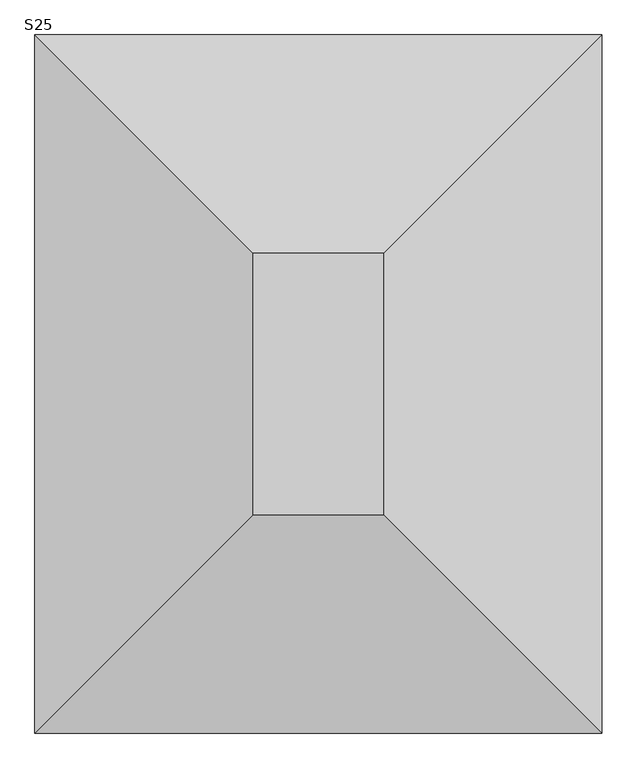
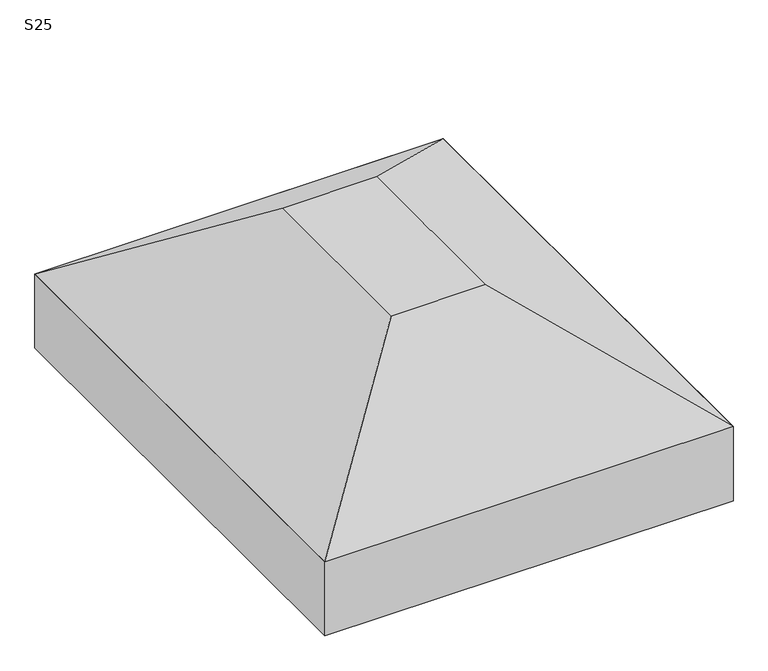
"""IFC4 building model written with IfcOpenShell, lengths in millimetres: fastener geometry, TQS - Sapata : S25."""

from ifc_helpers import new_model, si_unit, frame, origin, place, context, project, spatial, polyline, outline, extrude, faceted_brep, source, transform, mapped, element, save


def s25_540ac755(model_context):
    return source(origin(), model_context, "Body", "SolidModel", [
        faceted_brep([(-50.0, 100.0, 0.0), (-350.0, 100.0, 0.0), (-350.0, -500.0, 0.0), (-50.0, -500.0, 0.0), (450.0, 600.0, -350.0), (450.0, -1000.0, -350.0), (-850.0, -1000.0, -350.0), (-850.0, 600.0, -350.0)], [[[0, 1, 2, 3]], [[4, 5, 6, 7]], [[4, 7, 1, 0]], [[7, 6, 2, 1]], [[6, 5, 3, 2]], [[5, 4, 0, 3]]]),
        extrude(outline(polyline([(450.0, 600.0), (450.0, -1000.0), (-850.0, -1000.0), (-850.0, 600.0), (450.0, 600.0)])), frame((0.0, 0.0, -600.0), z_axis=(0.0, 0.0, 1.0), x_axis=(1.0, 0.0, 0.0)), (0.0, 0.0, 1.0), 250.0),
    ])


if __name__ == "__main__":
    model = new_model("IFC4")
    model_context = context("Model", 3, world=origin())
    ifc_project = project(units=[si_unit("LENGTHUNIT", "METRE", prefix="MILLI")], contexts=[model_context])
    site = spatial("IfcSite", under=ifc_project)
    building = spatial("IfcBuilding", under=site)
    placement = place(None, origin())
    s25_shape = s25_540ac755(model_context)
    element("IfcFastener", 1, ObjectType="TQS - Sapata : S25", at=placement, inside=building, context=model_context, shape_type="MappedRepresentation", body=[
        mapped(s25_shape, transform((0.0, 0.0, 0.0), x_axis=(1.0, 0.0, 0.0), y_axis=(0.0, 1.0, 0.0), z_axis=(0.0, 0.0, 1.0))),
    ])
    save(model, "model.ifc")
